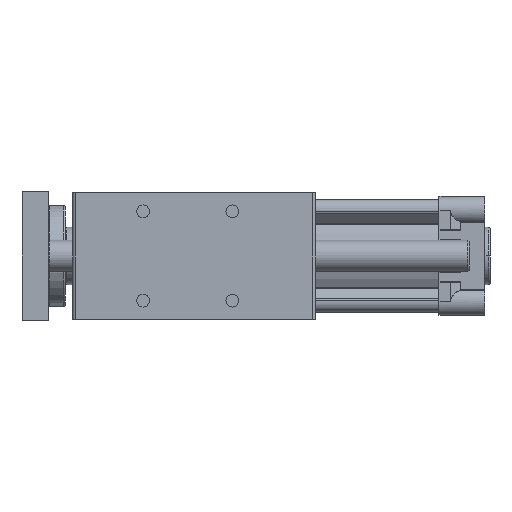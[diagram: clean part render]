
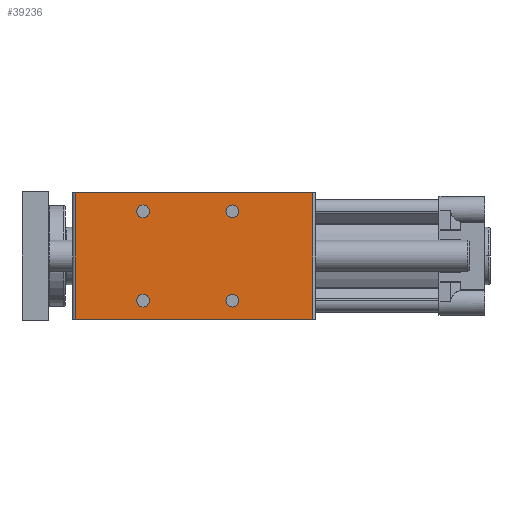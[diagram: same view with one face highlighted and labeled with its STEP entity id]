
A CAD part, left-side view. The second image highlights one B-rep face of the part: STEP entity #39236.
In plain terms, the highlighted planar face has unit normal (-1, 0, 0).
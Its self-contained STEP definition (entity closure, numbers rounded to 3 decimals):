
#168 = EDGE_LOOP ( 'NONE', ( #43150, #17672, #45011, #49452 ) ) ;
#585 = CARTESIAN_POINT ( 'NONE',  ( 0., -60., 14.5 ) ) ;
#756 = FACE_BOUND ( 'NONE', #15059, .T. ) ;
#1121 = CARTESIAN_POINT ( 'NONE',  ( 0., -55., 14.5 ) ) ;
#1627 = CARTESIAN_POINT ( 'NONE',  ( 0., -2., 99. ) ) ;
#2116 = ORIENTED_EDGE ( 'NONE', *, *, #41913, .F. ) ;
#2339 = DIRECTION ( 'NONE',  ( 1., 0., 0. ) ) ;
#2901 = CARTESIAN_POINT ( 'NONE',  ( 0., -2., 0. ) ) ;
#5042 = DIRECTION ( 'NONE',  ( 0., -1., 0. ) ) ;
#5534 = DIRECTION ( 'NONE',  ( 0., 0., -1. ) ) ;
#6161 = EDGE_CURVE ( 'NONE', #47797, #10669, #7930, .T. ) ;
#6232 = VERTEX_POINT ( 'NONE', #49782 ) ;
#6735 = VECTOR ( 'NONE', #6889, 1000. ) ;
#6889 = DIRECTION ( 'NONE',  ( 0., 0., -1. ) ) ;
#7294 = VERTEX_POINT ( 'NONE', #14737 ) ;
#7602 = VECTOR ( 'NONE', #5534, 1000. ) ;
#7930 = LINE ( 'NONE', #30007, #6735 ) ;
#9404 = CARTESIAN_POINT ( 'NONE',  ( 0., -2., 99. ) ) ;
#9491 = DIRECTION ( 'NONE',  ( -1., 0., 0. ) ) ;
#9804 = FACE_BOUND ( 'NONE', #20427, .T. ) ;
#9907 = PLANE ( 'NONE',  #46579 ) ;
#10120 = CIRCLE ( 'NONE', #33944, 5. ) ;
#10515 = EDGE_LOOP ( 'NONE', ( #28994, #36870 ) ) ;
#10669 = VERTEX_POINT ( 'NONE', #45717 ) ;
#11449 = CIRCLE ( 'NONE', #13681, 5. ) ;
#11989 = CARTESIAN_POINT ( 'NONE',  ( 0., -130., 84.5 ) ) ;
#12277 = DIRECTION ( 'NONE',  ( -1., 0., 0. ) ) ;
#13020 = CIRCLE ( 'NONE', #33597, 5. ) ;
#13668 = DIRECTION ( 'NONE',  ( -1., 0., 0. ) ) ;
#13681 = AXIS2_PLACEMENT_3D ( 'NONE', #44684, #21556, #48578 ) ;
#14013 = ORIENTED_EDGE ( 'NONE', *, *, #30665, .F. ) ;
#14044 = VERTEX_POINT ( 'NONE', #31390 ) ;
#14737 = CARTESIAN_POINT ( 'NONE',  ( 0., -2., 99. ) ) ;
#14812 = CARTESIAN_POINT ( 'NONE',  ( 0., -55., 84.5 ) ) ;
#15059 = EDGE_LOOP ( 'NONE', ( #2116, #34119 ) ) ;
#15315 = VECTOR ( 'NONE', #24417, 1000. ) ;
#16477 = DIRECTION ( 'NONE',  ( -1., 0., 0. ) ) ;
#17433 = VERTEX_POINT ( 'NONE', #2901 ) ;
#17672 = ORIENTED_EDGE ( 'NONE', *, *, #6161, .F. ) ;
#17966 = ORIENTED_EDGE ( 'NONE', *, *, #22746, .F. ) ;
#18687 = DIRECTION ( 'NONE',  ( 0., 1., 0. ) ) ;
#18967 = CIRCLE ( 'NONE', #44506, 5. ) ;
#19249 = CARTESIAN_POINT ( 'NONE',  ( 0., -125., 84.5 ) ) ;
#19459 = VERTEX_POINT ( 'NONE', #11989 ) ;
#20427 = EDGE_LOOP ( 'NONE', ( #30531, #17966 ) ) ;
#20455 = AXIS2_PLACEMENT_3D ( 'NONE', #1121, #28159, #5042 ) ;
#21556 = DIRECTION ( 'NONE',  ( -1., 0., 0. ) ) ;
#22119 = CIRCLE ( 'NONE', #46524, 5. ) ;
#22746 = EDGE_CURVE ( 'NONE', #25659, #26838, #13020, .T. ) ;
#22785 = EDGE_CURVE ( 'NONE', #28258, #6232, #22119, .T. ) ;
#23164 = DIRECTION ( 'NONE',  ( 0., -1., 0. ) ) ;
#24417 = DIRECTION ( 'NONE',  ( 0., -1., 0. ) ) ;
#24504 = EDGE_CURVE ( 'NONE', #17433, #10669, #49213, .T. ) ;
#25009 = EDGE_CURVE ( 'NONE', #7294, #47797, #37105, .T. ) ;
#25659 = VERTEX_POINT ( 'NONE', #28417 ) ;
#26232 = VECTOR ( 'NONE', #47192, 1000. ) ;
#26477 = CARTESIAN_POINT ( 'NONE',  ( 0., -50., 84.5 ) ) ;
#26838 = VERTEX_POINT ( 'NONE', #585 ) ;
#28092 = ORIENTED_EDGE ( 'NONE', *, *, #38026, .F. ) ;
#28159 = DIRECTION ( 'NONE',  ( -1., 0., 0. ) ) ;
#28258 = VERTEX_POINT ( 'NONE', #26477 ) ;
#28417 = CARTESIAN_POINT ( 'NONE',  ( 0., -50., 14.5 ) ) ;
#28994 = ORIENTED_EDGE ( 'NONE', *, *, #48454, .F. ) ;
#29173 = FACE_OUTER_BOUND ( 'NONE', #168, .T. ) ;
#29347 = DIRECTION ( 'NONE',  ( 0., 1., 0. ) ) ;
#29925 = CARTESIAN_POINT ( 'NONE',  ( 0., -188., 99. ) ) ;
#30007 = CARTESIAN_POINT ( 'NONE',  ( 0., -188., 99. ) ) ;
#30184 = EDGE_CURVE ( 'NONE', #26838, #25659, #32238, .T. ) ;
#30365 = FACE_BOUND ( 'NONE', #47731, .T. ) ;
#30531 = ORIENTED_EDGE ( 'NONE', *, *, #30184, .F. ) ;
#30665 = EDGE_CURVE ( 'NONE', #34279, #19459, #40711, .T. ) ;
#31390 = CARTESIAN_POINT ( 'NONE',  ( 0., -130., 14.5 ) ) ;
#32238 = CIRCLE ( 'NONE', #20455, 5. ) ;
#32645 = CARTESIAN_POINT ( 'NONE',  ( 0., -125., 84.5 ) ) ;
#33597 = AXIS2_PLACEMENT_3D ( 'NONE', #35447, #12277, #39322 ) ;
#33944 = AXIS2_PLACEMENT_3D ( 'NONE', #19249, #46290, #23164 ) ;
#34119 = ORIENTED_EDGE ( 'NONE', *, *, #41543, .F. ) ;
#34279 = VERTEX_POINT ( 'NONE', #47591 ) ;
#35447 = CARTESIAN_POINT ( 'NONE',  ( 0., -55., 14.5 ) ) ;
#36542 = DIRECTION ( 'NONE',  ( 0., -1., 0. ) ) ;
#36827 = CARTESIAN_POINT ( 'NONE',  ( 0., -125., 14.5 ) ) ;
#36870 = ORIENTED_EDGE ( 'NONE', *, *, #22785, .F. ) ;
#37105 = LINE ( 'NONE', #47225, #15315 ) ;
#38026 = EDGE_CURVE ( 'NONE', #19459, #34279, #10120, .T. ) ;
#39236 = ADVANCED_FACE ( 'NONE', ( #756, #9804, #30365, #39426, #29173 ), #9907, .F. ) ;
#39322 = DIRECTION ( 'NONE',  ( 0., -1., 0. ) ) ;
#39426 = FACE_BOUND ( 'NONE', #10515, .T. ) ;
#39429 = CARTESIAN_POINT ( 'NONE',  ( 0., -2., 0. ) ) ;
#39639 = CARTESIAN_POINT ( 'NONE',  ( 0., -55., 84.5 ) ) ;
#40499 = CIRCLE ( 'NONE', #49293, 5. ) ;
#40706 = DIRECTION ( 'NONE',  ( 0., 1., 0. ) ) ;
#40711 = CIRCLE ( 'NONE', #47996, 5. ) ;
#41419 = VERTEX_POINT ( 'NONE', #47129 ) ;
#41543 = EDGE_CURVE ( 'NONE', #41419, #14044, #40499, .T. ) ;
#41844 = DIRECTION ( 'NONE',  ( -1., 0., 0. ) ) ;
#41913 = EDGE_CURVE ( 'NONE', #14044, #41419, #11449, .T. ) ;
#43150 = ORIENTED_EDGE ( 'NONE', *, *, #24504, .T. ) ;
#43513 = DIRECTION ( 'NONE',  ( 0., 1., 0. ) ) ;
#44506 = AXIS2_PLACEMENT_3D ( 'NONE', #14812, #41844, #18687 ) ;
#44684 = CARTESIAN_POINT ( 'NONE',  ( 0., -125., 14.5 ) ) ;
#45011 = ORIENTED_EDGE ( 'NONE', *, *, #25009, .F. ) ;
#45717 = CARTESIAN_POINT ( 'NONE',  ( 0., -188., 0. ) ) ;
#45895 = EDGE_CURVE ( 'NONE', #7294, #17433, #49938, .T. ) ;
#46290 = DIRECTION ( 'NONE',  ( -1., 0., 0. ) ) ;
#46524 = AXIS2_PLACEMENT_3D ( 'NONE', #39639, #16477, #43513 ) ;
#46579 = AXIS2_PLACEMENT_3D ( 'NONE', #9404, #2339, #29347 ) ;
#47129 = CARTESIAN_POINT ( 'NONE',  ( 0., -120., 14.5 ) ) ;
#47192 = DIRECTION ( 'NONE',  ( 0., -1., 0. ) ) ;
#47225 = CARTESIAN_POINT ( 'NONE',  ( 0., -2., 99. ) ) ;
#47591 = CARTESIAN_POINT ( 'NONE',  ( 0., -120., 84.5 ) ) ;
#47731 = EDGE_LOOP ( 'NONE', ( #28092, #14013 ) ) ;
#47797 = VERTEX_POINT ( 'NONE', #29925 ) ;
#47996 = AXIS2_PLACEMENT_3D ( 'NONE', #32645, #9491, #36542 ) ;
#48454 = EDGE_CURVE ( 'NONE', #6232, #28258, #18967, .T. ) ;
#48578 = DIRECTION ( 'NONE',  ( 0., 1., 0. ) ) ;
#49213 = LINE ( 'NONE', #39429, #26232 ) ;
#49293 = AXIS2_PLACEMENT_3D ( 'NONE', #36827, #13668, #40706 ) ;
#49452 = ORIENTED_EDGE ( 'NONE', *, *, #45895, .T. ) ;
#49782 = CARTESIAN_POINT ( 'NONE',  ( 0., -60., 84.5 ) ) ;
#49938 = LINE ( 'NONE', #1627, #7602 ) ;
